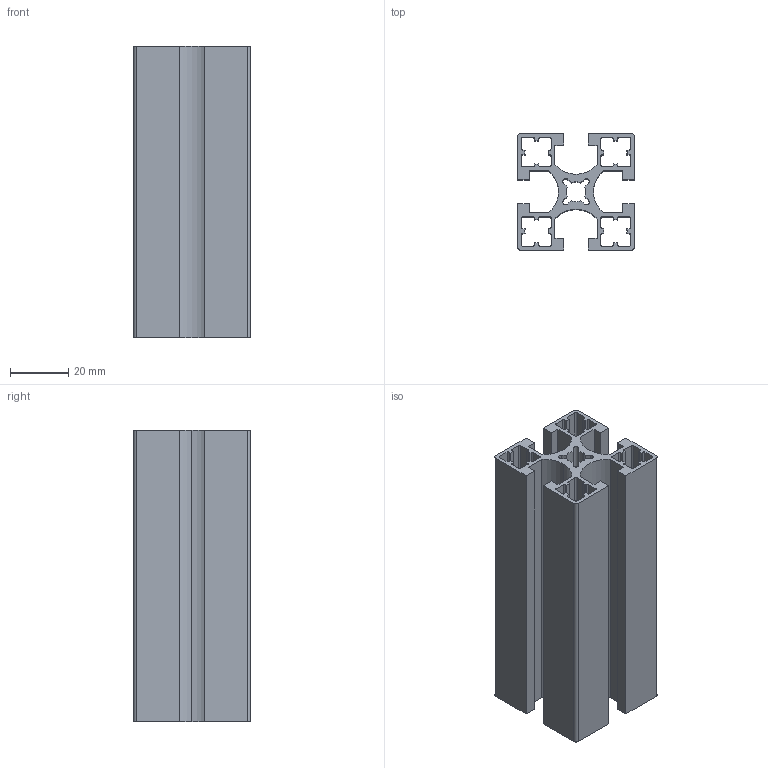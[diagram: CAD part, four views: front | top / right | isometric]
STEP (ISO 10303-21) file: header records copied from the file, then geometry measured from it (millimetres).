
FILE_DESCRIPTION (( 'STEP AP203' ), '1' );
FILE_NAME ('WS4040M-8.STEP', '2024-02-19T03:27:49', ( '' ), ( '' ), 'SwSTEP 2.0', 'SolidWorks 2022', '' );
FILE_SCHEMA (( 'CONFIG_CONTROL_DESIGN' ));
Length unit declared in the file: millimetre
Products named in the file (1): WS4040M-8
Bounding box: 40 x 40 x 100 mm (x, y, z)
Volume: 50534.9 mm3; surface area: 53901.7 mm2
Topology: 1 solids, 1 shells, 196 faces, 582 edges, 388 vertices
Faces by surface type: plane 108, cylinder 88
Entity records: 6699 total; most frequent: CARTESIAN_POINT 1167, ORIENTED_EDGE 1164, DIRECTION 1152, EDGE_CURVE 582, VECTOR 406, LINE 406, VERTEX_POINT 388, AXIS2_PLACEMENT_3D 373
